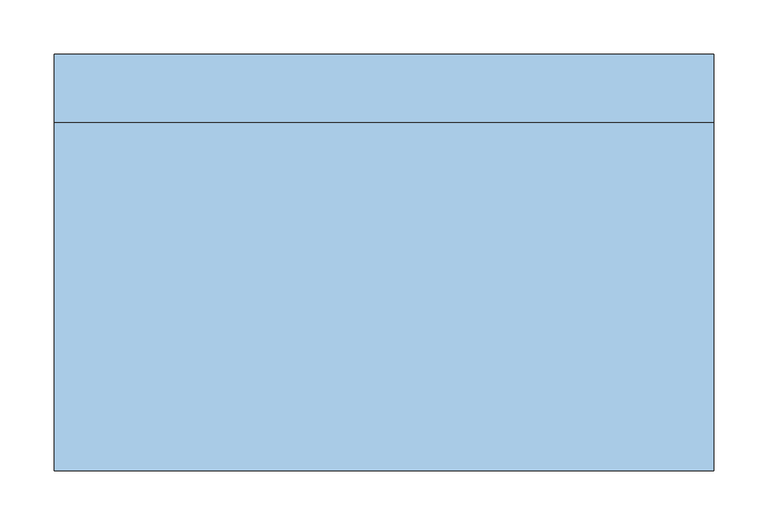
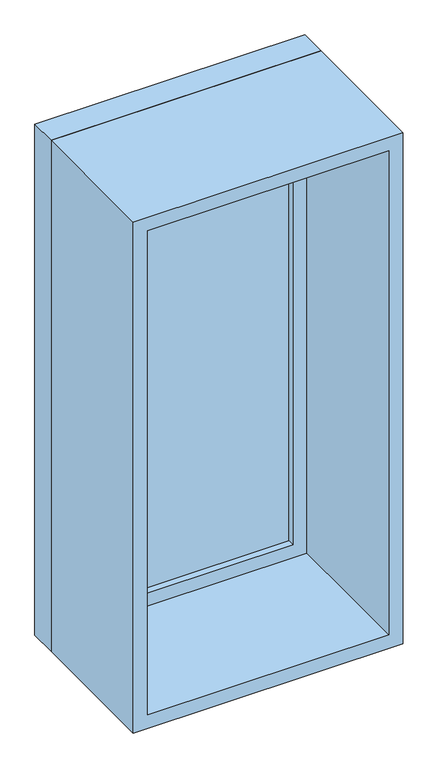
"""IFC4 building model written with IfcOpenShell, lengths in millimetres: window geometry, Фиксированные : 0610 x 1220 мм."""

from ifc_helpers import new_model, si_unit, frame, origin, place, context, project, spatial, polyline, outline, extrude, source, transform, mapped, element, save


def window_542deae6(model_context):
    return source(origin(), model_context, "Body", "SweptSolid", [
        extrude(outline(polyline([(-242.0, 170.5), (242.0, 170.5), (242.0, 158.5), (-242.0, 158.5), (-242.0, 170.5)])), frame((0.0, 0.0, 978.0), z_axis=(0.0, 0.0, 1.0), x_axis=(1.0, 0.0, 0.0)), (0.0, 0.0, 1.0), 1094.0),
        extrude(outline(polyline([(2116.0, -286.0), (934.0, -286.0), (934.0, 286.0), (2116.0, 286.0), (2116.0, -286.0)]), holes=[polyline([(2072.0, -242.0), (2072.0, 242.0), (978.0, 242.0), (978.0, -242.0), (2072.0, -242.0)])]), frame((0.0, 142.5, 0.0), z_axis=(0.0, 1.0, 0.0), x_axis=(0.0, 0.0, 1.0)), (0.0, 0.0, 1.0), 44.0),
        extrude(outline(polyline([(2135.0, -305.0), (915.0, -305.0), (915.0, 305.0), (2135.0, 305.0), (2135.0, -305.0)]), holes=[polyline([(2116.0, -286.0), (2116.0, 286.0), (934.0, 286.0), (934.0, -286.0), (2116.0, -286.0)])]), frame((0.0, 142.5, 0.0), z_axis=(0.0, 1.0, 0.0), x_axis=(0.0, 0.0, 1.0)), (0.0, 0.0, 1.0), 63.0),
        extrude(outline(polyline([(2135.0, -305.0), (915.0, -305.0), (915.0, 305.0), (2135.0, 305.0), (2135.0, -305.0)]), holes=[polyline([(2103.0, -273.0), (2103.0, 273.0), (947.0, 273.0), (947.0, -273.0), (2103.0, -273.0)])]), frame((0.0, -179.5, 0.0), z_axis=(0.0, 1.0, 0.0), x_axis=(0.0, 0.0, 1.0)), (0.0, 0.0, 1.0), 322.0),
    ])


if __name__ == "__main__":
    model = new_model("IFC4")
    model_context = context("Model", 3, world=origin())
    ifc_project = project(units=[si_unit("LENGTHUNIT", "METRE", prefix="MILLI")], contexts=[model_context])
    site = spatial("IfcSite", under=ifc_project)
    building = spatial("IfcBuilding", under=site)
    placement = place(None, origin())
    window_shape = window_542deae6(model_context)
    element("IfcWindow", 1, ObjectType="Фиксированные : 0610 x 1220 мм", at=placement, inside=building, context=model_context, shape_type="MappedRepresentation", body=[
        mapped(window_shape, transform((0.0, 0.0, 0.0), x_axis=(1.0, 0.0, 0.0), y_axis=(0.0, 1.0, 0.0), z_axis=(0.0, 0.0, 1.0))),
    ])
    save(model, "model.ifc")
